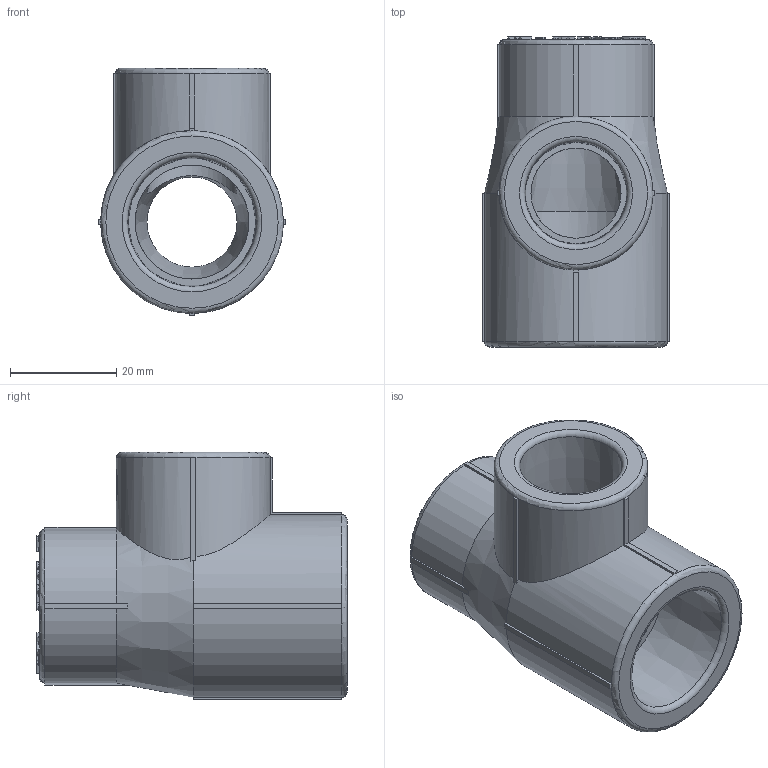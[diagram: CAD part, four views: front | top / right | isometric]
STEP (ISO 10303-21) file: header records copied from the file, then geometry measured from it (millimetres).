
FILE_DESCRIPTION(('STEP AP203'), '1');
FILE_NAME('ÂÐ.752241.052 - VTp.735.0.025020020', '', ('UNSPECIFIED'), ('UNSPECIFIED'), 'C3D Converter', 'C3D Toolkit', '');
FILE_SCHEMA(('CONFIG_CONTROL_DESIGN'));
Length unit declared in the file: millimetre
Products named in the file (1): ВР.752241.052
Bounding box: 35.3 x 58.5 x 46.65 mm (x, y, z)
Volume: 31913.1 mm3; surface area: 12968.1 mm2
Topology: 1 solids, 1 shells, 1135 faces, 3186 edges, 2113 vertices
Faces by surface type: extrusion 660, plane 424, cylinder 40, torus 6, cone 5
Full cylindrical faces by diameter (mm): 6 x1, 17 x2, 21.5 x1
Entity records: 41823 total; most frequent: CARTESIAN_POINT 16024, ORIENTED_EDGE 6344, DIRECTION 3212, EDGE_CURVE 3172, VECTOR 2140, VERTEX_POINT 2113, B_SPLINE_CURVE_WITH_KNOTS 2002, LINE 1480
